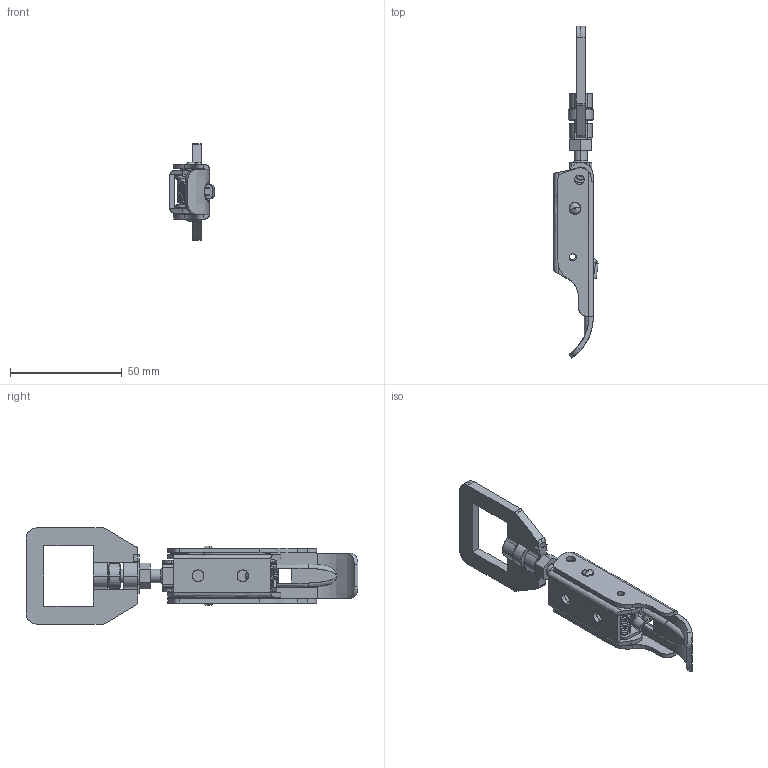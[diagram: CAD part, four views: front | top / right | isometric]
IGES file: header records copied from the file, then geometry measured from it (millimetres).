
Start section: SolidWorks IGES file using analytic representation for surfaces
Global section: file name: C:\Users\cbrechard\Desktop\GR 78 F.IGS; native system: SolidWorks 2017; preprocessor: SolidWorks 2017; author: cbrechard; date: 250403.090958; units: millimetre
Bounding box: 19.76 x 148.36 x 43 mm (x, y, z)
Surface area: 21160.1 mm2 (no closed solid volume)
Topology: 0 solids, 0 shells, 411 faces, 6202 edges, 6202 vertices
Faces by surface type: bspline 211, revolution 200
